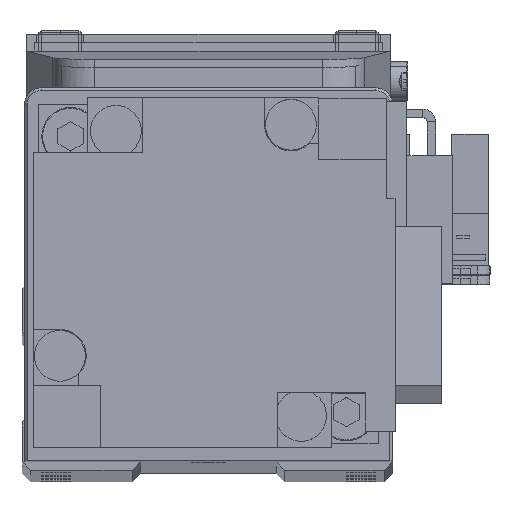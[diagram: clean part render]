
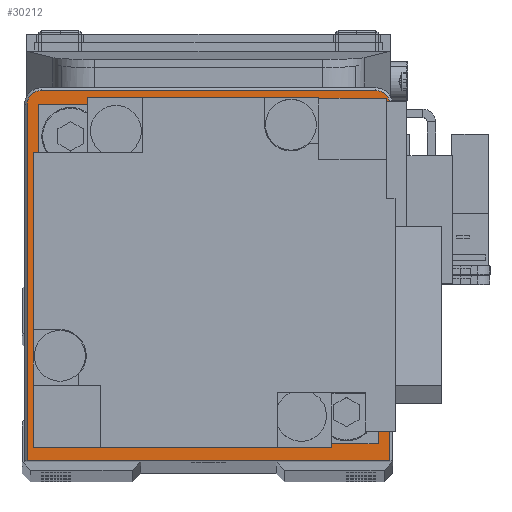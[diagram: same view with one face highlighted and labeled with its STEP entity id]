
A CAD part, top view. The second image highlights one B-rep face of the part: STEP entity #30212.
In plain terms, the highlighted planar face has unit normal (0, 0, 1).
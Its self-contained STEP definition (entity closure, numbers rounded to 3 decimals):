
#147 = ORIENTED_EDGE ( 'NONE', *, *, #31723, .F. ) ;
#901 = VECTOR ( 'NONE', #2805, 1000. ) ;
#2679 = VERTEX_POINT ( 'NONE', #15172 ) ;
#2805 = DIRECTION ( 'NONE',  ( 0., -1., 0. ) ) ;
#2851 = VERTEX_POINT ( 'NONE', #10953 ) ;
#2928 = VECTOR ( 'NONE', #10517, 1000. ) ;
#4859 = AXIS2_PLACEMENT_3D ( 'NONE', #6190, #16869, #27593 ) ;
#5580 = VERTEX_POINT ( 'NONE', #17300 ) ;
#5816 = EDGE_CURVE ( 'NONE', #2851, #29278, #21323, .T. ) ;
#5877 = CARTESIAN_POINT ( 'NONE',  ( 0., 0., 26.5 ) ) ;
#5970 = VERTEX_POINT ( 'NONE', #24998 ) ;
#6190 = CARTESIAN_POINT ( 'NONE',  ( 0., 0., 26.5 ) ) ;
#6296 = DIRECTION ( 'NONE',  ( -1., 0., 0. ) ) ;
#7115 = DIRECTION ( 'NONE',  ( 1., 0., 0. ) ) ;
#7864 = DIRECTION ( 'NONE',  ( 0., 0., 1. ) ) ;
#7997 = DIRECTION ( 'NONE',  ( 1., 0., 0. ) ) ;
#8437 = CIRCLE ( 'NONE', #28066, 1.7 ) ;
#8507 = FACE_OUTER_BOUND ( 'NONE', #32470, .T. ) ;
#9273 = AXIS2_PLACEMENT_3D ( 'NONE', #5877, #16556, #27275 ) ;
#9337 = ORIENTED_EDGE ( 'NONE', *, *, #18286, .T. ) ;
#9696 = EDGE_CURVE ( 'NONE', #34363, #2851, #16119, .T. ) ;
#9761 = CARTESIAN_POINT ( 'NONE',  ( -19.7, 21.7, 26.5 ) ) ;
#10265 = ORIENTED_EDGE ( 'NONE', *, *, #23552, .T. ) ;
#10459 = VERTEX_POINT ( 'NONE', #9761 ) ;
#10517 = DIRECTION ( 'NONE',  ( 0., 1., 0. ) ) ;
#10564 = CARTESIAN_POINT ( 'NONE',  ( -19.7, 20., 26.5 ) ) ;
#10953 = CARTESIAN_POINT ( 'NONE',  ( -21.4, -22., 26.5 ) ) ;
#11037 = VECTOR ( 'NONE', #6296, 1000. ) ;
#11179 = AXIS2_PLACEMENT_3D ( 'NONE', #10564, #21264, #31967 ) ;
#14689 = VERTEX_POINT ( 'NONE', #20264 ) ;
#15172 = CARTESIAN_POINT ( 'NONE',  ( 10., 0., 26.5 ) ) ;
#15235 = EDGE_CURVE ( 'NONE', #5970, #14689, #8437, .T. ) ;
#15758 = AXIS2_PLACEMENT_3D ( 'NONE', #20446, #31138, #7115 ) ;
#16119 = LINE ( 'NONE', #26832, #901 ) ;
#16556 = DIRECTION ( 'NONE',  ( 0., 0., 1. ) ) ;
#16869 = DIRECTION ( 'NONE',  ( 0., 0., 1. ) ) ;
#17300 = CARTESIAN_POINT ( 'NONE',  ( -10., 0., 26.5 ) ) ;
#18130 = CARTESIAN_POINT ( 'NONE',  ( -21.4, 20., 26.5 ) ) ;
#18286 = EDGE_CURVE ( 'NONE', #29278, #5970, #23852, .T. ) ;
#18347 = ORIENTED_EDGE ( 'NONE', *, *, #20980, .T. ) ;
#18556 = DIRECTION ( 'NONE',  ( 1., 0., 0. ) ) ;
#19212 = FACE_BOUND ( 'NONE', #20966, .T. ) ;
#19608 = LINE ( 'NONE', #30310, #11037 ) ;
#20000 = CIRCLE ( 'NONE', #4859, 10. ) ;
#20264 = CARTESIAN_POINT ( 'NONE',  ( 19.7, 21.7, 26.5 ) ) ;
#20446 = CARTESIAN_POINT ( 'NONE',  ( 0., 0., 26.5 ) ) ;
#20582 = EDGE_CURVE ( 'NONE', #2679, #5580, #20000, .T. ) ;
#20966 = EDGE_LOOP ( 'NONE', ( #147, #24523 ) ) ;
#20980 = EDGE_CURVE ( 'NONE', #14689, #10459, #19608, .T. ) ;
#21264 = DIRECTION ( 'NONE',  ( 0., 0., 1. ) ) ;
#21323 = LINE ( 'NONE', #32028, #31797 ) ;
#23217 = ORIENTED_EDGE ( 'NONE', *, *, #15235, .T. ) ;
#23534 = ORIENTED_EDGE ( 'NONE', *, *, #5816, .T. ) ;
#23552 = EDGE_CURVE ( 'NONE', #10459, #34363, #26305, .T. ) ;
#23852 = LINE ( 'NONE', #34542, #2928 ) ;
#24523 = ORIENTED_EDGE ( 'NONE', *, *, #20582, .F. ) ;
#24998 = CARTESIAN_POINT ( 'NONE',  ( 21.4, 20., 26.5 ) ) ;
#26305 = CIRCLE ( 'NONE', #11179, 1.7 ) ;
#26832 = CARTESIAN_POINT ( 'NONE',  ( -21.4, -22., 26.5 ) ) ;
#27275 = DIRECTION ( 'NONE',  ( 1., 0., 0. ) ) ;
#27593 = DIRECTION ( 'NONE',  ( 1., 0., 0. ) ) ;
#27957 = ORIENTED_EDGE ( 'NONE', *, *, #9696, .T. ) ;
#28066 = AXIS2_PLACEMENT_3D ( 'NONE', #31893, #7864, #18556 ) ;
#29278 = VERTEX_POINT ( 'NONE', #34565 ) ;
#29905 = PLANE ( 'NONE',  #9273 ) ;
#30212 = ADVANCED_FACE ( 'NONE', ( #8507, #19212 ), #29905, .T. ) ;
#30310 = CARTESIAN_POINT ( 'NONE',  ( -19.7, 21.7, 26.5 ) ) ;
#30912 = CIRCLE ( 'NONE', #15758, 10. ) ;
#31138 = DIRECTION ( 'NONE',  ( 0., 0., 1. ) ) ;
#31723 = EDGE_CURVE ( 'NONE', #5580, #2679, #30912, .T. ) ;
#31797 = VECTOR ( 'NONE', #7997, 1000. ) ;
#31893 = CARTESIAN_POINT ( 'NONE',  ( 19.7, 20., 26.5 ) ) ;
#31967 = DIRECTION ( 'NONE',  ( 1., 0., 0. ) ) ;
#32028 = CARTESIAN_POINT ( 'NONE',  ( -21.7, -22., 26.5 ) ) ;
#32470 = EDGE_LOOP ( 'NONE', ( #23534, #9337, #23217, #18347, #10265, #27957 ) ) ;
#34363 = VERTEX_POINT ( 'NONE', #18130 ) ;
#34542 = CARTESIAN_POINT ( 'NONE',  ( 21.4, 20., 26.5 ) ) ;
#34565 = CARTESIAN_POINT ( 'NONE',  ( 21.4, -22., 26.5 ) ) ;
